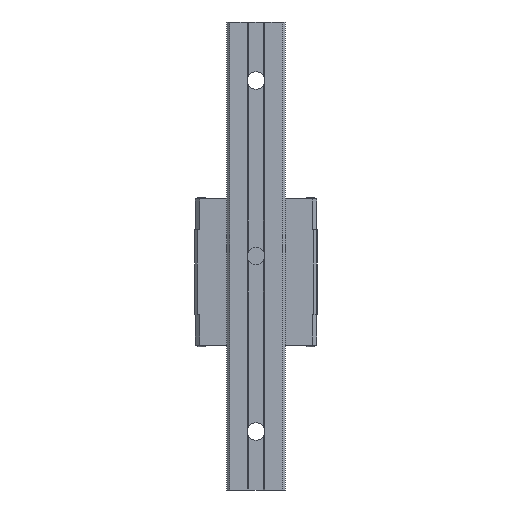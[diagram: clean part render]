
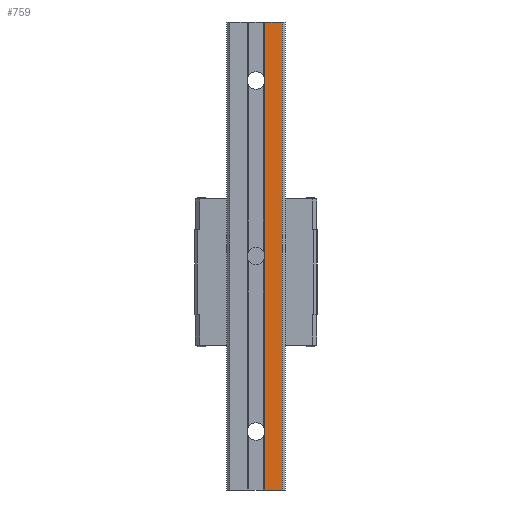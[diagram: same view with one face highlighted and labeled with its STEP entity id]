
A CAD part, front view. The second image highlights one B-rep face of the part: STEP entity #759.
In plain terms, the highlighted planar face has unit normal (0, -1, 0).
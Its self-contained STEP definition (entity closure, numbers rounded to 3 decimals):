
#477=FACE_OUTER_BOUND('',#2462,.T.);
#759=ADVANCED_FACE('',(#477),#931,.T.);
#931=PLANE('',#6184);
#1349=LINE('',#9884,#1869);
#1377=LINE('',#9968,#1897);
#1394=LINE('',#10012,#1914);
#1395=LINE('',#10014,#1915);
#1396=LINE('',#10017,#1916);
#1397=LINE('',#10019,#1917);
#1398=LINE('',#10020,#1918);
#1869=VECTOR('',#7415,1.);
#1897=VECTOR('',#7475,1.);
#1914=VECTOR('',#7524,1.);
#1915=VECTOR('',#7527,1.);
#1916=VECTOR('',#7528,1.);
#1917=VECTOR('',#7529,1.);
#1918=VECTOR('',#7530,1.);
#2462=EDGE_LOOP('',(#3988,#3989,#3990,#3991,#3992,#3993,#3994));
#3988=ORIENTED_EDGE('',*,*,#5536,.F.);
#3989=ORIENTED_EDGE('',*,*,#5537,.F.);
#3990=ORIENTED_EDGE('',*,*,#5538,.F.);
#3991=ORIENTED_EDGE('',*,*,#5471,.T.);
#3992=ORIENTED_EDGE('',*,*,#5535,.T.);
#3993=ORIENTED_EDGE('',*,*,#5513,.F.);
#3994=ORIENTED_EDGE('',*,*,#5539,.F.);
#4683=VERTEX_POINT('',#9883);
#4684=VERTEX_POINT('',#9885);
#4723=VERTEX_POINT('',#9967);
#4724=VERTEX_POINT('',#9969);
#4735=VERTEX_POINT('',#10015);
#4736=VERTEX_POINT('',#10016);
#4737=VERTEX_POINT('',#10018);
#5471=EDGE_CURVE('',#4684,#4683,#1349,.T.);
#5513=EDGE_CURVE('',#4723,#4724,#1377,.T.);
#5535=EDGE_CURVE('',#4683,#4724,#1394,.T.);
#5536=EDGE_CURVE('',#4735,#4736,#1395,.T.);
#5537=EDGE_CURVE('',#4737,#4735,#1396,.T.);
#5538=EDGE_CURVE('',#4684,#4737,#1397,.T.);
#5539=EDGE_CURVE('',#4736,#4723,#1398,.T.);
#6184=AXIS2_PLACEMENT_3D('',#10021,#7531,#7532);
#7415=DIRECTION('',(1.,0.,0.));
#7475=DIRECTION('',(1.,0.,0.));
#7524=DIRECTION('',(0.,0.,1.));
#7527=DIRECTION('',(0.,0.,1.));
#7528=DIRECTION('',(0.,0.,1.));
#7529=DIRECTION('',(0.,0.,1.));
#7530=DIRECTION('',(0.,0.,1.));
#7531=DIRECTION('',(0.,-1.,0.));
#7532=DIRECTION('',(1.,0.,0.));
#9883=CARTESIAN_POINT('',(9.,-15.5,-60.));
#9884=CARTESIAN_POINT('',(3.,-15.5,-60.));
#9885=CARTESIAN_POINT('',(3.,-15.5,-60.));
#9967=CARTESIAN_POINT('',(3.,-15.5,100.));
#9968=CARTESIAN_POINT('',(3.,-15.5,100.));
#9969=CARTESIAN_POINT('',(9.,-15.5,100.));
#10012=CARTESIAN_POINT('',(9.,-15.5,-60.));
#10014=CARTESIAN_POINT('',(3.,-15.5,20.));
#10015=CARTESIAN_POINT('',(3.,-15.5,20.));
#10016=CARTESIAN_POINT('',(3.,-15.5,80.));
#10017=CARTESIAN_POINT('',(3.,-15.5,-40.));
#10018=CARTESIAN_POINT('',(3.,-15.5,-40.));
#10019=CARTESIAN_POINT('',(3.,-15.5,-60.));
#10020=CARTESIAN_POINT('',(3.,-15.5,80.));
#10021=CARTESIAN_POINT('',(3.,-15.5,-30.));
